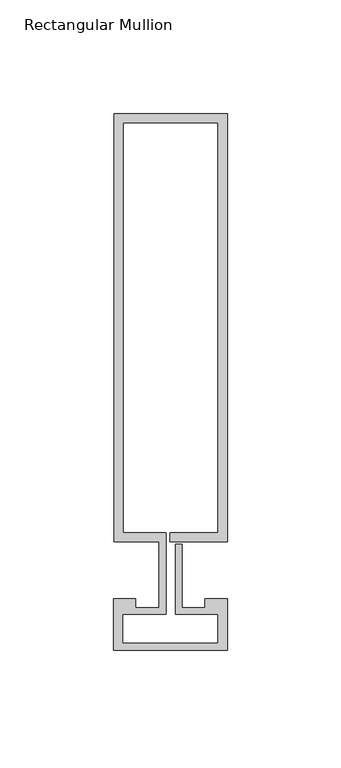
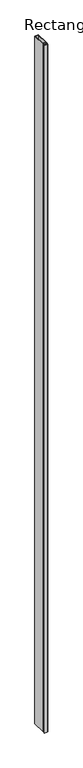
"""IFC4 building model written with IfcOpenShell, lengths in millimetres: member geometry, Rectangular Mullion : Reynaers_CW-50_Mullion-Transom_Vertical_188.5mm_Facecap-02C."""

import ifcopenshell
import ifcopenshell.guid

model = None  # the IFC model being written
_history = None  # IfcOwnerHistory: only IFC2X3 demands one
_inside = {}  # id of a spatial element -> (the spatial element, [elements in it])
_under = {}  # id of a project, library or spatial element -> (it, [spatial elements below it])
_declared = {}  # id of a project -> (the project, [libraries it declares])
_typed = {}  # id of a type object -> (the type object, [elements of that type])
_made_of = {}  # id of a material, layer set ... -> (it, [elements and type objects made of it])


def new_model(schema):
    """Start an empty IFC model of exactly this schema.

    Asked for "IFC4X3", IfcOpenShell would pick the latest addendum, in which some entities
    have other attributes; the version numbers below select the first issue.
    IFC2X3 requires an IfcOwnerHistory on every rooted entity: one is made here for all.
    """
    global model, _history
    if schema == "IFC4X3":
        model = ifcopenshell.file(schema_version=(4, 3, 0, 0))
    else:
        model = ifcopenshell.file(schema=schema)
    _inside.clear()
    _under.clear()
    _declared.clear()
    _typed.clear()
    _made_of.clear()
    _history = None
    if model.schema == "IFC2X3":
        org = make("IfcOrganization", Name="unknown")
        user = make(
            "IfcPersonAndOrganization",
            ThePerson=make("IfcPerson", FamilyName="unknown"),
            TheOrganization=org,
        )
        app = make(
            "IfcApplication",
            ApplicationDeveloper=org,
            Version="unknown",
            ApplicationFullName="unknown",
            ApplicationIdentifier="unknown",
        )
        _history = make(
            "IfcOwnerHistory",
            OwningUser=user,
            OwningApplication=app,
            ChangeAction="ADDED",
            CreationDate=0,
        )
    return model


def make(cls, **values):
    """One entity of the class cls with the attributes given. An attribute that is None is left unset."""
    return model.create_entity(
        cls, **{name: value for name, value in values.items() if value is not None}
    )


def rooted(cls, **values):
    """An entity with a GlobalId (a new one), such as an element, a storey or a relation."""
    return make(cls, GlobalId=ifcopenshell.guid.new(), OwnerHistory=_history, **values)


def si_unit(unit_type, name, prefix=None):
    """IfcSIUnit, for example si_unit("LENGTHUNIT", "METRE", prefix="MILLI")."""
    return make("IfcSIUnit", UnitType=unit_type, Prefix=prefix, Name=name)


def assignment(units):
    """IfcUnitAssignment: the units of a project."""
    return None if units is None else make("IfcUnitAssignment", Units=units)


def point(xyz):
    """IfcCartesianPoint."""
    return None if xyz is None else make("IfcCartesianPoint", Coordinates=xyz)


def direction(xyz):
    """IfcDirection."""
    return None if xyz is None else make("IfcDirection", DirectionRatios=xyz)


def frame(location, z_axis=None, x_axis=None):
    """IfcAxis2Placement3D, a coordinate frame: its origin and axes. An axis left out is left unset."""
    return make(
        "IfcAxis2Placement3D",
        Location=point(location),
        Axis=direction(z_axis),
        RefDirection=direction(x_axis),
    )


def origin():
    """The frame at (0, 0, 0) with its axes left unset."""
    return frame((0.0, 0.0, 0.0))


def place(relative_to, where):
    """IfcLocalPlacement: puts the frame where relative to a parent placement (None: the world)."""
    return make(
        "IfcLocalPlacement", PlacementRelTo=relative_to, RelativePlacement=where
    )


def context(
    kind, dimensions, precision=None, world=None, true_north=None, identifier=None
):
    """IfcGeometricRepresentationContext, for example the 3D "Model" context."""
    return make(
        "IfcGeometricRepresentationContext",
        ContextIdentifier=identifier,
        ContextType=kind,
        CoordinateSpaceDimension=dimensions,
        Precision=precision,
        WorldCoordinateSystem=world,
        TrueNorth=true_north,
    )


def project(units=None, contexts=None):
    """IfcProject with its units and contexts."""
    return rooted(
        "IfcProject",
        Name="project",
        RepresentationContexts=contexts,
        UnitsInContext=assignment(units),
    )


def spatial(cls, under=None, at=None, **own):
    """A site, building, storey or space (cls), placed at a placement, below another one or the project."""
    s = rooted(cls, ObjectPlacement=at, **own)
    if under is not None:
        _under.setdefault(under.id(), (under, []))[1].append(s)
    return s


def polyline(points):
    """IfcPolyline through the points."""
    return make("IfcPolyline", Points=[point(p) for p in points])


def outline(outer, holes=None, kind="AREA"):
    """IfcArbitraryClosedProfileDef: a profile drawn as a closed curve; with holes, ...WithVoids."""
    if holes is None:
        return make("IfcArbitraryClosedProfileDef", ProfileType=kind, OuterCurve=outer)
    return make(
        "IfcArbitraryProfileDefWithVoids",
        ProfileType=kind,
        OuterCurve=outer,
        InnerCurves=holes,
    )


def extrude(swept, where, along, depth):
    """IfcExtrudedAreaSolid: the profile swept, set in the frame where, extruded along a direction by depth."""
    return make(
        "IfcExtrudedAreaSolid",
        SweptArea=swept,
        Position=where,
        ExtrudedDirection=direction(along),
        Depth=depth,
    )


def shape(context_of_items, identifier, shape_type, items):
    """IfcShapeRepresentation: the items that make up one representation, for example the "Body"."""
    return make(
        "IfcShapeRepresentation",
        ContextOfItems=context_of_items,
        RepresentationIdentifier=identifier,
        RepresentationType=shape_type,
        Items=items,
    )


def source(mapping_origin, context_of_items, identifier, shape_type, items):
    """IfcRepresentationMap: a shape defined once, which mapped items show again and again."""
    return make(
        "IfcRepresentationMap",
        MappingOrigin=mapping_origin,
        MappedRepresentation=shape(context_of_items, identifier, shape_type, items),
    )


def transform(
    local_origin,
    x_axis=None,
    y_axis=None,
    z_axis=None,
    scale=None,
    scale2=None,
    scale3=None,
    uniform=True,
):
    """IfcCartesianTransformationOperator3D, or its non-uniform kind. x_axis, y_axis, z_axis: its Axis1, 2, 3."""
    if uniform:
        return make(
            "IfcCartesianTransformationOperator3D",
            Axis1=direction(x_axis),
            Axis2=direction(y_axis),
            LocalOrigin=point(local_origin),
            Scale=scale,
            Axis3=direction(z_axis),
        )
    return make(
        "IfcCartesianTransformationOperator3DnonUniform",
        Axis1=direction(x_axis),
        Axis2=direction(y_axis),
        LocalOrigin=point(local_origin),
        Scale=scale,
        Axis3=direction(z_axis),
        Scale2=scale2,
        Scale3=scale3,
    )


def mapped(mapping_source, mapping_target):
    """IfcMappedItem: shows the shape of a source again, moved by a transform."""
    return make(
        "IfcMappedItem", MappingSource=mapping_source, MappingTarget=mapping_target
    )


def made_of(thing, what):
    """Note that an element or type object is made of a material, layer set ...; save() writes the relation."""
    if what is not None:
        _made_of.setdefault(what.id(), (what, []))[1].append(thing)
    return thing


def element(
    cls,
    number,
    at=None,
    inside=None,
    cuts=None,
    type_object=None,
    material=None,
    context=None,
    identifier="Body",
    shape_type=None,
    held_by="IfcProductDefinitionShape",
    body=None,
    shapes=None,
    **own,
):
    """One element of the class cls, such as IfcWall. Its Tag is "e" and its number.

    at: its placement. inside: the storey or other place that contains it. cuts: it is an
    opening in that element (IfcRelVoidsElement). A single representation is given by context,
    identifier, shape_type and body (its items); several are given by shapes. held_by: the class
    of the entity that holds the representations. save() writes the other relations.
    """
    e = rooted(cls, Tag="e%d" % number, ObjectPlacement=at, **own)
    if body is not None:
        shapes = [shape(context, identifier, shape_type, body)]
    if shapes is not None:
        e.Representation = make(held_by, Representations=shapes)
    if inside is not None:
        _inside.setdefault(inside.id(), (inside, []))[1].append(e)
    if cuts is not None:
        rooted(
            "IfcRelVoidsElement", RelatingBuildingElement=cuts, RelatedOpeningElement=e
        )
    if type_object is not None:
        _typed.setdefault(type_object.id(), (type_object, []))[1].append(e)
    return made_of(e, material)


def aggregate(whole, parts):
    """IfcRelAggregates: a whole, such as a stair, and the parts it consists of."""
    return rooted("IfcRelAggregates", RelatingObject=whole, RelatedObjects=parts)


def save(model, path):
    """Write the relations noted so far, then the file.

    IfcRelAggregates (storeys below a building ...), IfcRelContainedInSpatialStructure (elements
    in a storey), IfcRelDefinesByType, IfcRelAssociatesMaterial and IfcRelDeclares: one each for
    every whole, place, type object, material and project.
    """
    for whole, parts in _under.values():
        aggregate(whole, parts)
    for where, things in _inside.values():
        rooted(
            "IfcRelContainedInSpatialStructure",
            RelatedElements=things,
            RelatingStructure=where,
        )
    for kind, things in _typed.values():
        rooted("IfcRelDefinesByType", RelatedObjects=things, RelatingType=kind)
    for what, things in _made_of.values():
        rooted("IfcRelAssociatesMaterial", RelatedObjects=things, RelatingMaterial=what)
    for by, libraries in _declared.values():
        rooted("IfcRelDeclares", RelatingContext=by, RelatedDefinitions=libraries)
    model.write(path)


def rectangular_mullion_af04c52f(model_context):
    return source(origin(), model_context, "Body", "SweptSolid", [
        extrude(outline(polyline([(-24.8004059, 201.0), (25.1995941, 201.0), (25.1995941, 12.5), (0.0, 12.5), (0.0, 16.5), (21.1995941, 16.5), (21.1995941, 197.0), (-20.8004059, 197.0), (-20.8004059, 16.5), (-1.9004059, 16.5), (-1.9004059, -19.5), (-20.994845, -19.5), (-20.994845, -32.2191338), (21.1995941, -32.2191338), (21.1995941, -19.5), (2.2995941, -19.5), (2.2995941, 11.5), (5.2995941, 11.5), (5.2995941, -16.5), (15.2996495, -16.5), (15.2996495, -12.5), (25.1995941, -12.5), (25.1995941, -35.3), (-24.994845, -35.3), (-24.994845, -12.5), (-15.2996495, -12.5), (-15.2996495, -16.5), (-4.9004059, -16.5), (-4.9004059, 12.5), (-24.8004059, 12.5), (-24.8004059, 201.0)])), frame((0.0, 0.0, -10400.0), z_axis=(0.0, 0.0, 1.0), x_axis=(1.0, 0.0, 0.0)), (0.0, 0.0, 1.0), 10400.0),
    ])


if __name__ == "__main__":
    model = new_model("IFC4")
    model_context = context("Model", 3, world=origin())
    ifc_project = project(units=[si_unit("LENGTHUNIT", "METRE", prefix="MILLI")], contexts=[model_context])
    site = spatial("IfcSite", under=ifc_project)
    building = spatial("IfcBuilding", under=site)
    placement = place(None, origin())
    rectangular_mullion_shape = rectangular_mullion_af04c52f(model_context)
    element("IfcMember", 1, ObjectType="Rectangular Mullion : Reynaers_CW-50_Mullion-Transom_Vertical_188.5mm_Facecap-02C", at=placement, inside=building, context=model_context, shape_type="MappedRepresentation", body=[
        mapped(rectangular_mullion_shape, transform((0.0, 0.0, 0.0), x_axis=(1.0, 0.0, 0.0), y_axis=(0.0, 1.0, 0.0), z_axis=(0.0, 0.0, 1.0))),
    ])
    save(model, "model.ifc")
